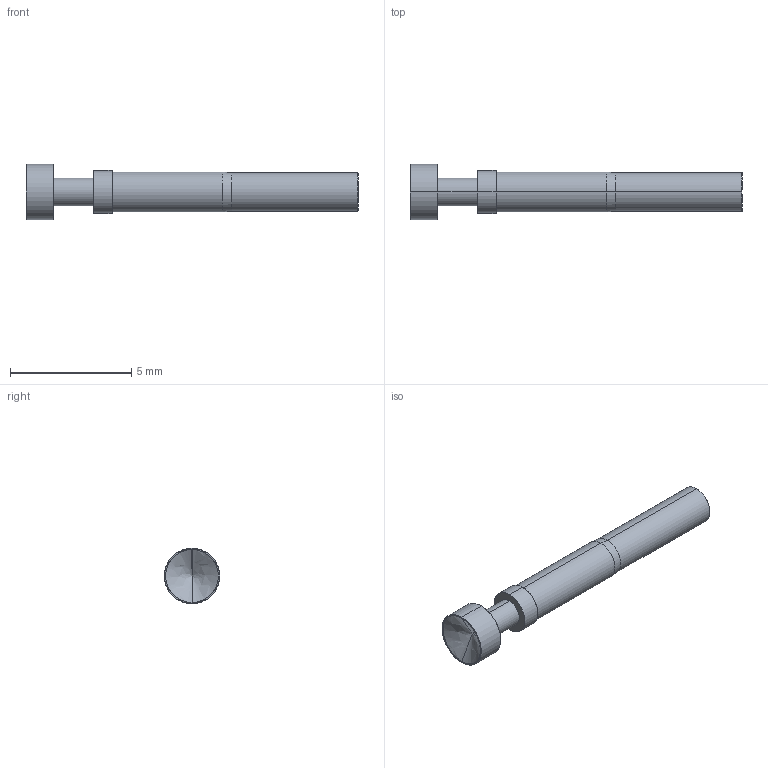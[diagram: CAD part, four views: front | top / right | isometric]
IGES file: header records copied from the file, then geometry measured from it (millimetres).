
Start section: SolidWorks IGES file using analytic representation for surfaces
Global section: file name: O:\PYLON\IGES FILES\E-S\E-S-V.IGS; native system: SolidWorks 2015; preprocessor: SolidWorks 2015; author: kgolden; date: 171024.085357; units: inch
Bounding box: 13.72 x 2.29 x 2.29 mm (x, y, z)
Surface area: 90.6 mm2 (no closed solid volume)
Topology: 0 solids, 0 shells, 22 faces, 320 edges, 318 vertices
Faces by surface type: revolution 16, bspline 6
